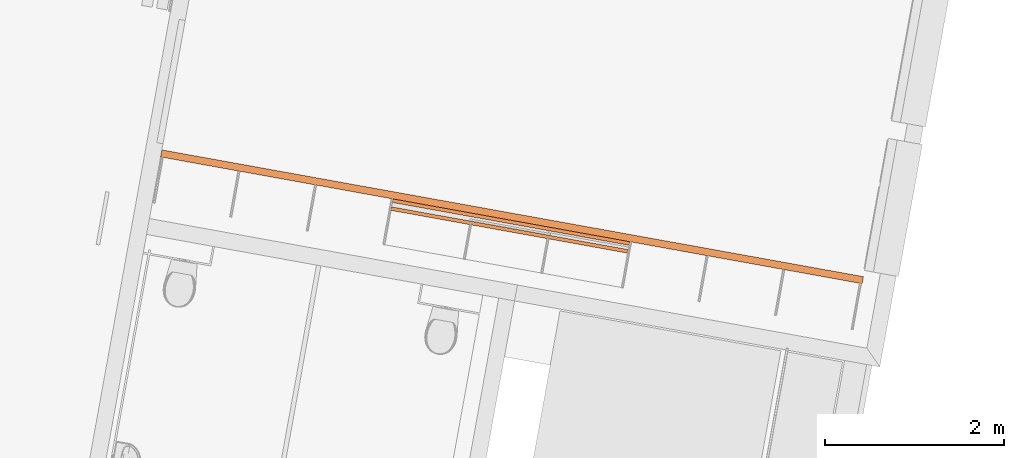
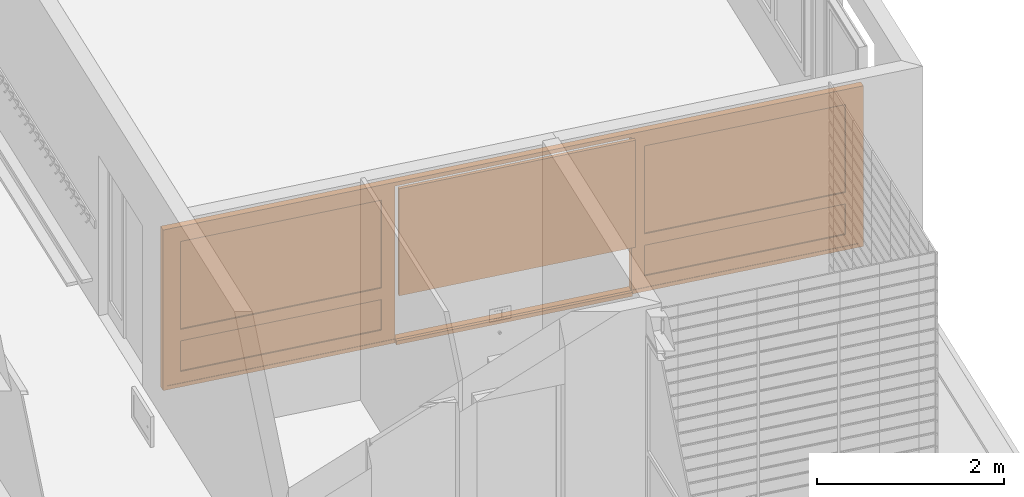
# One storey, part 17 of 52: 3 proxies.
"""IFC2X3 building model written with IfcOpenShell, lengths in metres."""

from ifc_helpers import new_model, entity, si_unit, converted_unit, derived_unit, money_unit, direction, frame, origin_with_axes, place, context, subcontext, project, spatial, polyline, outline, extrude, open_shell, faceted_brep, surface_model, source, transform, mapped, material, type_object, element, save


model = new_model("IFC2X3")

# Units and contexts
model_context = context("Model", 3, precision=1e-05, world=origin_with_axes(), true_north=direction((0.0, 1.0)))
body_context = subcontext(model_context, "Body", "Model", "MODEL_VIEW")
ifc_project = project(units=[si_unit("LENGTHUNIT", "METRE"), si_unit("AREAUNIT", "SQUARE_METRE"), si_unit("VOLUMEUNIT", "CUBIC_METRE"), converted_unit("PLANEANGLEUNIT", "DEGREE", entity("IfcPlaneAngleMeasure", 0.0174532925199), si_unit("PLANEANGLEUNIT", "RADIAN"), dimensions=[0, 0, 0, 0, 0, 0, 0]), money_unit("CHF"), converted_unit("TIMEUNIT", "Year", entity("IfcTimeMeasure", 31556926.0), si_unit("TIMEUNIT", "SECOND"), dimensions=[0, 0, 1, 0, 0, 0, 0]), si_unit("MASSUNIT", "GRAM", prefix="KILO"), si_unit("THERMODYNAMICTEMPERATUREUNIT", "DEGREE_CELSIUS"), si_unit("LUMINOUSINTENSITYUNIT", "LUMEN"), si_unit("ENERGYUNIT", "JOULE", prefix="MEGA"), derived_unit("THERMALCONDUCTANCEUNIT", [(si_unit("POWERUNIT", "WATT"), 1), (si_unit("LENGTHUNIT", "METRE"), -1), (si_unit("THERMODYNAMICTEMPERATUREUNIT", "KELVIN"), -1)]), derived_unit("SPECIFICHEATCAPACITYUNIT", [(si_unit("ENERGYUNIT", "JOULE"), 1), (si_unit("MASSUNIT", "GRAM", prefix="KILO"), -1), (si_unit("THERMODYNAMICTEMPERATUREUNIT", "KELVIN"), -1)]), derived_unit("MASSDENSITYUNIT", [(si_unit("MASSUNIT", "GRAM", prefix="KILO"), 1), (si_unit("VOLUMEUNIT", "CUBIC_METRE"), -1)])], contexts=[model_context])

# Site, building, storey
site_placement = place(None, frame((0.0, 0.0, 0.0), z_axis=(0.0, 0.0, 1.0), x_axis=(-0.177771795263, -0.984071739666, 0.0)))
site = spatial("IfcSite", under=ifc_project, at=site_placement, Name="Site", CompositionType="ELEMENT")
building_placement = place(site_placement, origin_with_axes())
building = spatial("IfcBuilding", under=site, at=building_placement, Name="Bâtiment", CompositionType="ELEMENT")
storey_placement = place(building_placement, frame((0.0, 0.0, 3.2), z_axis=(0.0, 0.0, 1.0), x_axis=(1.0, 0.0, 0.0)))
storey = spatial("IfcBuildingStorey", under=building, at=storey_placement, Name="R+1", CompositionType="ELEMENT", Elevation=3.2)

# Proxies
ifc_material_1 = material(Name="Matériau de construction IFC")
building_element_proxy_type_1 = type_object("IfcBuildingElementProxyType", Name="porte-couliss-triple_JM2", PredefinedType="NOTDEFINED")
shared_shape = source(origin_with_axes(), body_context, "Body", "SurfaceModel", [
    surface_model("IfcShellBasedSurfaceModel", [(7.92, -0.0799999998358, 0.05), (7.92, -0.0799999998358, 2.05), (7.92, 1.64206426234e-10, 2.05), (7.92, 1.64206426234e-10, 0.05), (7.97, -0.0799999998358, 2.05), (7.97, -0.0799999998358, 0.05), (7.97, 1.64206426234e-10, 2.05), (7.97, 1.64206426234e-10, 0.05)], [open_shell([[[0, 1, 2, 3]], [[4, 1, 0, 5]], [[6, 7, 3, 2]]])]),
    surface_model("IfcShellBasedSurfaceModel", [(7.97, -0.0799999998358, 0.0), (7.97, -0.0799999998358, 2.1), (7.97, 1.64206426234e-10, 2.1), (7.97, 1.64206426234e-10, 0.0)], [open_shell([[[0, 1, 2, 3]]])]),
    surface_model("IfcShellBasedSurfaceModel", [(0.05, -0.0799999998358, 0.05), (7.92, -0.0799999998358, 0.05), (7.92, 1.64206426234e-10, 0.05), (0.05, 1.64206426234e-10, 0.05), (7.92, -0.0799999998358, 0.0), (0.05, -0.0799999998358, 0.0), (7.92, 1.64206426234e-10, 0.0), (0.05, 1.64206426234e-10, 0.0)], [open_shell([[[0, 1, 2, 3]], [[4, 1, 0, 5]], [[6, 7, 3, 2]]])]),
    surface_model("IfcShellBasedSurfaceModel", [(7.97, -0.0799999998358, 0.0), (0.0, -0.0799999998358, 0.0), (0.0, 1.64206426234e-10, 0.0), (7.97, 1.64206426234e-10, 0.0)], [open_shell([[[0, 1, 2, 3]]])]),
    surface_model("IfcShellBasedSurfaceModel", [(7.97, -0.0799999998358, 0.0), (7.97, -0.0799999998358, 0.05), (7.92, -0.0799999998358, 0.05), (7.92, -0.0799999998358, 0.0)], [open_shell([[[0, 1, 2, 3]]])]),
    surface_model("IfcShellBasedSurfaceModel", [(7.97, 1.64206426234e-10, 0.0), (7.97, 1.64206426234e-10, 0.05), (7.92, 1.64206426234e-10, 0.05), (7.92, 1.64206426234e-10, 0.0)], [open_shell([[[0, 1, 2, 3]]])]),
    surface_model("IfcShellBasedSurfaceModel", [(0.05, -0.0799999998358, 0.0), (0.05, -0.0799999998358, 0.05), (0.0, -0.0799999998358, 0.05), (0.0, -0.0799999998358, 0.0)], [open_shell([[[0, 1, 2, 3]]])]),
    surface_model("IfcShellBasedSurfaceModel", [(0.05, 1.64206426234e-10, 0.0), (0.05, 1.64206426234e-10, 0.05), (0.0, 1.64206426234e-10, 0.05), (0.0, 1.64206426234e-10, 0.0)], [open_shell([[[0, 1, 2, 3]]])]),
    surface_model("IfcShellBasedSurfaceModel", [(0.05, -0.0799999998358, 2.05), (0.05, -0.0799999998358, 0.05), (0.05, 1.64206426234e-10, 0.05), (0.05, 1.64206426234e-10, 2.05), (0.0, -0.0799999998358, 0.05), (0.0, -0.0799999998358, 2.05), (0.0, 1.64206426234e-10, 0.05), (0.0, 1.64206426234e-10, 2.05)], [open_shell([[[0, 1, 2, 3]], [[4, 1, 0, 5]], [[6, 7, 3, 2]]])]),
    surface_model("IfcShellBasedSurfaceModel", [(0.0, -0.0799999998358, 0.0), (0.0, -0.0799999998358, 2.1), (0.0, 1.64206426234e-10, 2.1), (0.0, 1.64206426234e-10, 0.0)], [open_shell([[[0, 1, 2, 3]]])]),
    surface_model("IfcShellBasedSurfaceModel", [(7.92, -0.0799999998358, 2.05), (0.05, -0.0799999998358, 2.05), (0.05, 1.64206426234e-10, 2.05), (7.92, 1.64206426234e-10, 2.05), (0.05, -0.0799999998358, 2.1), (7.92, -0.0799999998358, 2.1), (0.05, 1.64206426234e-10, 2.1), (7.92, 1.64206426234e-10, 2.1)], [open_shell([[[0, 1, 2, 3]], [[4, 1, 0, 5]], [[6, 7, 3, 2]]])]),
    surface_model("IfcShellBasedSurfaceModel", [(7.97, -0.0799999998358, 2.1), (0.0, -0.0799999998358, 2.1), (0.0, 1.64206426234e-10, 2.1), (7.97, 1.64206426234e-10, 2.1)], [open_shell([[[0, 1, 2, 3]]])]),
    surface_model("IfcShellBasedSurfaceModel", [(7.97, -0.0799999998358, 2.05), (7.97, -0.0799999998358, 2.1), (7.92, -0.0799999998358, 2.1), (7.92, -0.0799999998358, 2.05)], [open_shell([[[0, 1, 2, 3]]])]),
    surface_model("IfcShellBasedSurfaceModel", [(7.97, 1.64206426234e-10, 2.05), (7.97, 1.64206426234e-10, 2.1), (7.92, 1.64206426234e-10, 2.1), (7.92, 1.64206426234e-10, 2.05)], [open_shell([[[0, 1, 2, 3]]])]),
    surface_model("IfcShellBasedSurfaceModel", [(0.05, -0.0799999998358, 2.05), (0.05, -0.0799999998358, 2.1), (0.0, -0.0799999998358, 2.1), (0.0, -0.0799999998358, 2.05)], [open_shell([[[0, 1, 2, 3]]])]),
    surface_model("IfcShellBasedSurfaceModel", [(0.05, 1.64206426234e-10, 2.05), (0.05, 1.64206426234e-10, 2.1), (0.0, 1.64206426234e-10, 2.1), (0.0, 1.64206426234e-10, 2.05)], [open_shell([[[0, 1, 2, 3]]])]),
    surface_model("IfcShellBasedSurfaceModel", [(7.77, -0.0744999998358, 0.2), (7.77, -0.0744999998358, 1.9), (7.77, -0.00449999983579, 1.9), (7.77, -0.00449999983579, 0.2), (7.92, -0.0744999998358, 1.9), (7.92, -0.0744999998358, 0.2), (7.92, -0.00449999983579, 1.9), (7.92, -0.00449999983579, 0.2)], [open_shell([[[0, 1, 2, 3]], [[4, 1, 0, 5]], [[6, 7, 3, 2]]])]),
    surface_model("IfcShellBasedSurfaceModel", [(7.92, -0.0744999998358, 0.05), (7.92, -0.0744999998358, 2.05), (7.92, -0.00449999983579, 2.05), (7.92, -0.00449999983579, 0.05)], [open_shell([[[0, 1, 2, 3]]])]),
    surface_model("IfcShellBasedSurfaceModel", [(5.48, -0.0744999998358, 0.2), (7.77, -0.0744999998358, 0.2), (7.77, -0.00449999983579, 0.2), (5.48, -0.00449999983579, 0.2), (7.77, -0.0744999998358, 0.05), (5.48, -0.0744999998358, 0.05), (7.77, -0.00449999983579, 0.05), (5.48, -0.00449999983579, 0.05)], [open_shell([[[0, 1, 2, 3]], [[4, 1, 0, 5]], [[6, 7, 3, 2]]])]),
    surface_model("IfcShellBasedSurfaceModel", [(7.92, -0.0744999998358, 0.05), (5.33, -0.0744999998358, 0.05), (5.33, -0.00449999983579, 0.05), (7.92, -0.00449999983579, 0.05)], [open_shell([[[0, 1, 2, 3]]])]),
    surface_model("IfcShellBasedSurfaceModel", [(7.92, -0.0744999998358, 0.05), (7.92, -0.0744999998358, 0.2), (7.77, -0.0744999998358, 0.2), (7.77, -0.0744999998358, 0.05)], [open_shell([[[0, 1, 2, 3]]])]),
    surface_model("IfcShellBasedSurfaceModel", [(7.92, -0.00449999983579, 0.05), (7.92, -0.00449999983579, 0.2), (7.77, -0.00449999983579, 0.2), (7.77, -0.00449999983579, 0.05)], [open_shell([[[0, 1, 2, 3]]])]),
    surface_model("IfcShellBasedSurfaceModel", [(5.48, -0.0744999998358, 0.05), (5.48, -0.0744999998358, 0.2), (5.33, -0.0744999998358, 0.2), (5.33, -0.0744999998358, 0.05)], [open_shell([[[0, 1, 2, 3]]])]),
    surface_model("IfcShellBasedSurfaceModel", [(5.48, -0.00449999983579, 0.05), (5.48, -0.00449999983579, 0.2), (5.33, -0.00449999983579, 0.2), (5.33, -0.00449999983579, 0.05)], [open_shell([[[0, 1, 2, 3]]])]),
    surface_model("IfcShellBasedSurfaceModel", [(5.48, -0.0744999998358, 1.9), (5.48, -0.0744999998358, 0.2), (5.48, -0.00449999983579, 0.2), (5.48, -0.00449999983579, 1.9), (5.33, -0.0744999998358, 0.2), (5.33, -0.0744999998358, 1.9), (5.33, -0.00449999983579, 0.2), (5.33, -0.00449999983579, 1.9)], [open_shell([[[0, 1, 2, 3]], [[4, 1, 0, 5]], [[6, 7, 3, 2]]])]),
    surface_model("IfcShellBasedSurfaceModel", [(5.33, -0.0744999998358, 0.05), (5.33, -0.0744999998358, 2.05), (5.33, -0.00449999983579, 2.05), (5.33, -0.00449999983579, 0.05)], [open_shell([[[0, 1, 2, 3]]])]),
    surface_model("IfcShellBasedSurfaceModel", [(7.77, -0.0744999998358, 1.9), (5.48, -0.0744999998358, 1.9), (5.48, -0.00449999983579, 1.9), (7.77, -0.00449999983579, 1.9), (5.48, -0.0744999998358, 2.05), (7.77, -0.0744999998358, 2.05), (5.48, -0.00449999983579, 2.05), (7.77, -0.00449999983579, 2.05)], [open_shell([[[0, 1, 2, 3]], [[4, 1, 0, 5]], [[6, 7, 3, 2]]])]),
    surface_model("IfcShellBasedSurfaceModel", [(7.92, -0.0744999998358, 2.05), (5.33, -0.0744999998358, 2.05), (5.33, -0.00449999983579, 2.05), (7.92, -0.00449999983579, 2.05)], [open_shell([[[0, 1, 2, 3]]])]),
    surface_model("IfcShellBasedSurfaceModel", [(7.92, -0.0744999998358, 1.9), (7.92, -0.0744999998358, 2.05), (7.77, -0.0744999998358, 2.05), (7.77, -0.0744999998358, 1.9)], [open_shell([[[0, 1, 2, 3]]])]),
    surface_model("IfcShellBasedSurfaceModel", [(7.92, -0.00449999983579, 1.9), (7.92, -0.00449999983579, 2.05), (7.77, -0.00449999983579, 2.05), (7.77, -0.00449999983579, 1.9)], [open_shell([[[0, 1, 2, 3]]])]),
    surface_model("IfcShellBasedSurfaceModel", [(5.48, -0.0744999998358, 1.9), (5.48, -0.0744999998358, 2.05), (5.33, -0.0744999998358, 2.05), (5.33, -0.0744999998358, 1.9)], [open_shell([[[0, 1, 2, 3]]])]),
    surface_model("IfcShellBasedSurfaceModel", [(5.48, -0.00449999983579, 1.9), (5.48, -0.00449999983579, 2.05), (5.33, -0.00449999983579, 2.05), (5.33, -0.00449999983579, 1.9)], [open_shell([[[0, 1, 2, 3]]])]),
    faceted_brep([(5.48, -0.0194999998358, 0.2), (7.77, -0.0194999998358, 0.2), (7.77, -0.0594999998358, 0.2), (5.48, -0.0594999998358, 0.2), (5.48, -0.0194999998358, 0.6), (7.77, -0.0194999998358, 0.6), (7.77, -0.0594999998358, 0.6), (5.48, -0.0594999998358, 0.6)], [[[0, 1, 2, 3]], [[1, 0, 4, 5]], [[2, 1, 5, 6]], [[3, 2, 6, 7]], [[0, 3, 7, 4]], [[5, 4, 7, 6]]]),
    faceted_brep([(5.48, -0.00449999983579, 0.6), (7.77, -0.00449999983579, 0.6), (7.77, -0.0744999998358, 0.6), (5.48, -0.0744999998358, 0.6), (5.48, -0.00449999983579, 0.75), (7.77, -0.00449999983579, 0.75), (7.77, -0.0744999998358, 0.75), (5.48, -0.0744999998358, 0.75)], [[[0, 1, 2, 3]], [[1, 0, 4, 5]], [[2, 1, 5, 6]], [[3, 2, 6, 7]], [[0, 3, 7, 4]], [[5, 4, 7, 6]]]),
    faceted_brep([(5.48, -0.0194999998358, 0.75), (7.77, -0.0194999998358, 0.75), (7.77, -0.0594999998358, 0.75), (5.48, -0.0594999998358, 0.75), (5.48, -0.0194999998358, 1.9), (7.77, -0.0194999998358, 1.9), (7.77, -0.0594999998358, 1.9), (5.48, -0.0594999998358, 1.9)], [[[0, 1, 2, 3]], [[1, 0, 4, 5]], [[2, 1, 5, 6]], [[3, 2, 6, 7]], [[0, 3, 7, 4]], [[5, 4, 7, 6]]]),
    surface_model("IfcShellBasedSurfaceModel", [(2.49, -0.0744999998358, 0.2), (2.49, -0.0744999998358, 1.9), (2.49, -0.00449999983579, 1.9), (2.49, -0.00449999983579, 0.2), (2.64, -0.0744999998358, 1.9), (2.64, -0.0744999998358, 0.2), (2.64, -0.00449999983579, 1.9), (2.64, -0.00449999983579, 0.2)], [open_shell([[[0, 1, 2, 3]], [[4, 1, 0, 5]], [[6, 7, 3, 2]]])]),
    surface_model("IfcShellBasedSurfaceModel", [(2.64, -0.0744999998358, 0.05), (2.64, -0.0744999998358, 2.05), (2.64, -0.00449999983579, 2.05), (2.64, -0.00449999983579, 0.05)], [open_shell([[[0, 1, 2, 3]]])]),
    surface_model("IfcShellBasedSurfaceModel", [(0.2, -0.0744999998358, 0.2), (2.49, -0.0744999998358, 0.2), (2.49, -0.00449999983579, 0.2), (0.2, -0.00449999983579, 0.2), (2.49, -0.0744999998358, 0.05), (0.2, -0.0744999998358, 0.05), (2.49, -0.00449999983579, 0.05), (0.2, -0.00449999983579, 0.05)], [open_shell([[[0, 1, 2, 3]], [[4, 1, 0, 5]], [[6, 7, 3, 2]]])]),
    surface_model("IfcShellBasedSurfaceModel", [(2.64, -0.0744999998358, 0.05), (0.05, -0.0744999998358, 0.05), (0.05, -0.00449999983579, 0.05), (2.64, -0.00449999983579, 0.05)], [open_shell([[[0, 1, 2, 3]]])]),
    surface_model("IfcShellBasedSurfaceModel", [(2.64, -0.0744999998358, 0.05), (2.64, -0.0744999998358, 0.2), (2.49, -0.0744999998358, 0.2), (2.49, -0.0744999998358, 0.05)], [open_shell([[[0, 1, 2, 3]]])]),
    surface_model("IfcShellBasedSurfaceModel", [(2.64, -0.00449999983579, 0.05), (2.64, -0.00449999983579, 0.2), (2.49, -0.00449999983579, 0.2), (2.49, -0.00449999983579, 0.05)], [open_shell([[[0, 1, 2, 3]]])]),
    surface_model("IfcShellBasedSurfaceModel", [(0.2, -0.0744999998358, 0.05), (0.2, -0.0744999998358, 0.2), (0.05, -0.0744999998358, 0.2), (0.05, -0.0744999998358, 0.05)], [open_shell([[[0, 1, 2, 3]]])]),
    surface_model("IfcShellBasedSurfaceModel", [(0.2, -0.00449999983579, 0.05), (0.2, -0.00449999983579, 0.2), (0.05, -0.00449999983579, 0.2), (0.05, -0.00449999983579, 0.05)], [open_shell([[[0, 1, 2, 3]]])]),
    surface_model("IfcShellBasedSurfaceModel", [(0.2, -0.0744999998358, 1.9), (0.2, -0.0744999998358, 0.2), (0.2, -0.00449999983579, 0.2), (0.2, -0.00449999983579, 1.9), (0.05, -0.0744999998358, 0.2), (0.05, -0.0744999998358, 1.9), (0.05, -0.00449999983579, 0.2), (0.05, -0.00449999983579, 1.9)], [open_shell([[[0, 1, 2, 3]], [[4, 1, 0, 5]], [[6, 7, 3, 2]]])]),
    surface_model("IfcShellBasedSurfaceModel", [(0.05, -0.0744999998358, 0.05), (0.05, -0.0744999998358, 2.05), (0.05, -0.00449999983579, 2.05), (0.05, -0.00449999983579, 0.05)], [open_shell([[[0, 1, 2, 3]]])]),
    surface_model("IfcShellBasedSurfaceModel", [(2.49, -0.0744999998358, 1.9), (0.2, -0.0744999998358, 1.9), (0.2, -0.00449999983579, 1.9), (2.49, -0.00449999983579, 1.9), (0.2, -0.0744999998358, 2.05), (2.49, -0.0744999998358, 2.05), (0.2, -0.00449999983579, 2.05), (2.49, -0.00449999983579, 2.05)], [open_shell([[[0, 1, 2, 3]], [[4, 1, 0, 5]], [[6, 7, 3, 2]]])]),
    surface_model("IfcShellBasedSurfaceModel", [(2.64, -0.0744999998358, 2.05), (0.05, -0.0744999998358, 2.05), (0.05, -0.00449999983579, 2.05), (2.64, -0.00449999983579, 2.05)], [open_shell([[[0, 1, 2, 3]]])]),
    surface_model("IfcShellBasedSurfaceModel", [(2.64, -0.0744999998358, 1.9), (2.64, -0.0744999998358, 2.05), (2.49, -0.0744999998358, 2.05), (2.49, -0.0744999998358, 1.9)], [open_shell([[[0, 1, 2, 3]]])]),
    surface_model("IfcShellBasedSurfaceModel", [(2.64, -0.00449999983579, 1.9), (2.64, -0.00449999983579, 2.05), (2.49, -0.00449999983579, 2.05), (2.49, -0.00449999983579, 1.9)], [open_shell([[[0, 1, 2, 3]]])]),
    surface_model("IfcShellBasedSurfaceModel", [(0.2, -0.0744999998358, 1.9), (0.2, -0.0744999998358, 2.05), (0.05, -0.0744999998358, 2.05), (0.05, -0.0744999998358, 1.9)], [open_shell([[[0, 1, 2, 3]]])]),
    surface_model("IfcShellBasedSurfaceModel", [(0.2, -0.00449999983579, 1.9), (0.2, -0.00449999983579, 2.05), (0.05, -0.00449999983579, 2.05), (0.05, -0.00449999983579, 1.9)], [open_shell([[[0, 1, 2, 3]]])]),
    faceted_brep([(0.2, -0.0194999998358, 0.2), (2.49, -0.0194999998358, 0.2), (2.49, -0.0594999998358, 0.2), (0.2, -0.0594999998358, 0.2), (0.2, -0.0194999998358, 0.6), (2.49, -0.0194999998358, 0.6), (2.49, -0.0594999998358, 0.6), (0.2, -0.0594999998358, 0.6)], [[[0, 1, 2, 3]], [[1, 0, 4, 5]], [[2, 1, 5, 6]], [[3, 2, 6, 7]], [[0, 3, 7, 4]], [[5, 4, 7, 6]]]),
    faceted_brep([(0.2, -0.00449999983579, 0.6), (2.49, -0.00449999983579, 0.6), (2.49, -0.0744999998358, 0.6), (0.2, -0.0744999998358, 0.6), (0.2, -0.00449999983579, 0.75), (2.49, -0.00449999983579, 0.75), (2.49, -0.0744999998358, 0.75), (0.2, -0.0744999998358, 0.75)], [[[0, 1, 2, 3]], [[1, 0, 4, 5]], [[2, 1, 5, 6]], [[3, 2, 6, 7]], [[0, 3, 7, 4]], [[5, 4, 7, 6]]]),
    faceted_brep([(0.2, -0.0194999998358, 0.75), (2.49, -0.0194999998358, 0.75), (2.49, -0.0594999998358, 0.75), (0.2, -0.0594999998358, 0.75), (0.2, -0.0194999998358, 1.9), (2.49, -0.0194999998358, 1.9), (2.49, -0.0594999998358, 1.9), (0.2, -0.0594999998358, 1.9)], [[[0, 1, 2, 3]], [[1, 0, 4, 5]], [[2, 1, 5, 6]], [[3, 2, 6, 7]], [[0, 3, 7, 4]], [[5, 4, 7, 6]]]),
])
proxy_1_placement = place(storey_placement, frame((137.054841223, -156.447131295, 0.0), z_axis=(0.0, 0.0, 1.0), x_axis=(0.0, 1.0, 0.0)))
element("IfcBuildingElementProxy", 1, at=proxy_1_placement, inside=storey, type_object=building_element_proxy_type_1, material=ifc_material_1, Name="coulissant-classe", context=body_context, shape_type="MappedRepresentation", body=[
    mapped(shared_shape, transform((0.0, 0.0, 0.0))),
])
ifc_material_2 = material(Name="_panneau mélaminé")
building_element_proxy_type_2 = type_object("IfcBuildingElementProxyType", Name="_panneau mélaminé 40", PredefinedType="NOTDEFINED")
proxy_2_placement = place(storey_placement, frame((137.224841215, -151.107651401, 0.7), z_axis=(0.0, 0.0, 1.0), x_axis=(0.0, -1.0, 0.0)))
element("IfcBuildingElementProxy", 2, at=proxy_2_placement, inside=storey, type_object=building_element_proxy_type_2, material=ifc_material_2, Name="tableau-classe", context=body_context, shape_type="SweptSolid", body=[
    extrude(outline(polyline([(0.0095, 0.0), (2.6995, 0.0), (2.6995, 0.04), (0.0095, 0.04), (0.0095, 0.0)])), origin_with_axes(), (0.0, 0.0, 1.0), 1.4),
])
ifc_material_3 = material(Name="_Bois contreplaqué")
building_element_proxy_type_3 = type_object("IfcBuildingElementProxyType", Name="_Bois contreplaqué 50", PredefinedType="NOTDEFINED")
proxy_3_placement = place(storey_placement, frame((137.134841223, -153.807151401, 0.05), z_axis=(0.0, 0.0, 1.0), x_axis=(1.0, 0.0, 0.0)))
element("IfcBuildingElementProxy", 3, at=proxy_3_placement, inside=storey, type_object=building_element_proxy_type_3, material=ifc_material_3, Name="socle-tableau", context=body_context, shape_type="SweptSolid", body=[
    extrude(outline(polyline([(0.0, 0.0), (0.0399999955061, 0.0), (0.0399999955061, 2.69), (0.0, 2.69), (0.0, 0.0)])), frame((0.0, 0.0, -0.05), z_axis=(0.0, 0.0, 1.0), x_axis=(1.0, 0.0, 0.0)), (0.0, 0.0, 1.0), 0.05),
])

save(model, "model.ifc")
